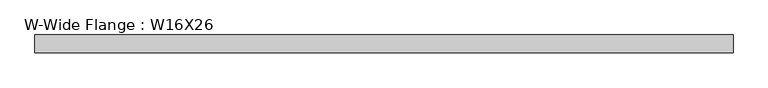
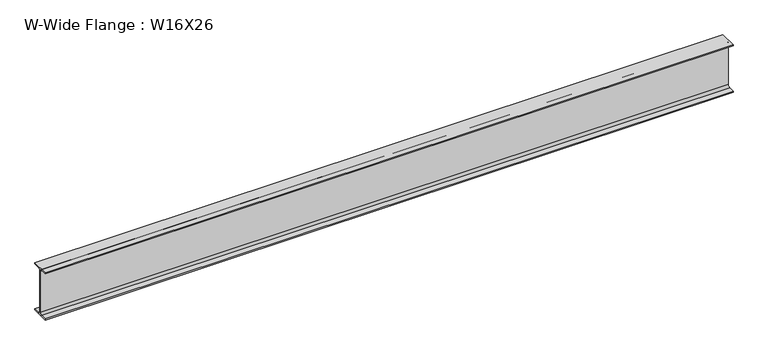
"""IFC4 building model written with IfcOpenShell, lengths in millimetres: beam geometry, W-Wide Flange : W16X26."""

from ifc_helpers import new_model, si_unit, point, frame, frame_2d, origin, place, context, project, spatial, polyline, circle_curve, trimmed, segment, composite_curve, outline, extrude, source, transform, mapped, element, save


def w_wide_flange_w16x26_3df24392(model_context):
    return source(origin(), model_context, "Body", "SweptSolid", [
        extrude(outline(composite_curve([segment(polyline([(69.85, -190.5496094), (69.85, -199.2808594), (-69.85, -199.2808594), (-69.85, -190.5496094), (-21.43125, -190.5496094)]), True, "CONTINUOUS"), segment(trimmed(circle_curve(frame_2d((-21.43125, -172.2933594)), 18.25625), [point((-21.43125, -190.5496094))], [point((-3.175, -172.2933594))], True, "CARTESIAN"), True, "CONTINUOUS"), segment(polyline([(-3.175, -172.2933594), (-3.175, 172.2933594)]), True, "CONTINUOUS"), segment(trimmed(circle_curve(frame_2d((-21.43125, 172.2933594)), 18.25625), [point((-3.175, 172.2933594))], [point((-21.43125, 190.5496094))], True, "CARTESIAN"), True, "CONTINUOUS"), segment(polyline([(-21.43125, 190.5496094), (-69.85, 190.5496094), (-69.85, 199.2808594), (69.85, 199.2808594), (69.85, 190.5496094), (21.43125, 190.5496094)]), True, "CONTINUOUS"), segment(trimmed(circle_curve(frame_2d((21.43125, 172.2933594)), 18.25625), [point((21.43125, 190.5496094))], [point((3.175, 172.2933594))], True, "CARTESIAN"), True, "CONTINUOUS"), segment(polyline([(3.175, 172.2933594), (3.175, -172.2933594)]), True, "CONTINUOUS"), segment(trimmed(circle_curve(frame_2d((21.43125, -172.2933594)), 18.25625), [point((3.175, -172.2933594))], [point((21.43125, -190.5496094))], True, "CARTESIAN"), True, "CONTINUOUS"), segment(polyline([(21.43125, -190.5496094), (69.85, -190.5496094)]), True, "CONTINUOUS")], self_intersect=False)), frame((-2753.4305556, 0.0, 0.0), z_axis=(1.0, 0.0, 0.0), x_axis=(0.0, 1.0, 0.0)), (0.0, 0.0, 1.0), 5495.8478299),
    ])


if __name__ == "__main__":
    model = new_model("IFC4")
    model_context = context("Model", 3, world=origin())
    ifc_project = project(units=[si_unit("LENGTHUNIT", "METRE", prefix="MILLI")], contexts=[model_context])
    site = spatial("IfcSite", under=ifc_project)
    building = spatial("IfcBuilding", under=site)
    placement = place(None, origin())
    w_wide_flange_w16x26_shape = w_wide_flange_w16x26_3df24392(model_context)
    element("IfcBeam", 1, ObjectType="W-Wide Flange : W16X26", at=placement, inside=building, context=model_context, shape_type="MappedRepresentation", body=[
        mapped(w_wide_flange_w16x26_shape, transform((0.0, 0.0, 0.0), x_axis=(1.0, 0.0, 0.0), y_axis=(0.0, 1.0, 0.0), z_axis=(0.0, 0.0, 1.0))),
    ])
    save(model, "model.ifc")
